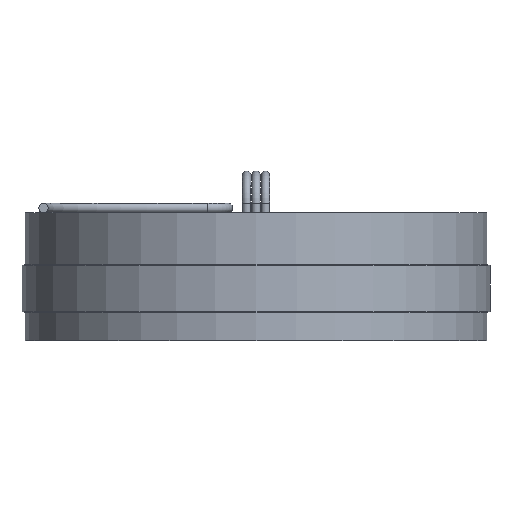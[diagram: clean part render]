
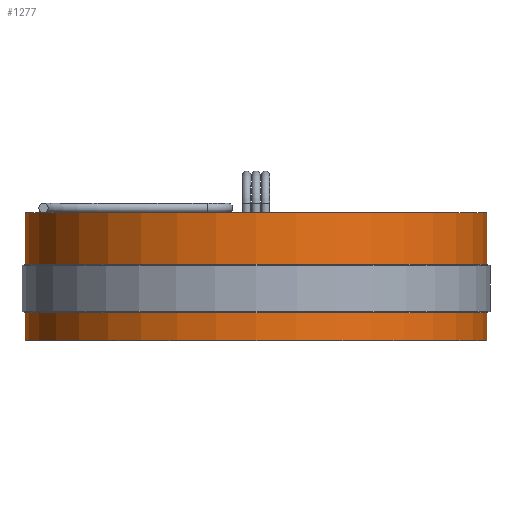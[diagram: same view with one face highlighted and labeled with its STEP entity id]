
A CAD part, front view. The second image highlights one B-rep face of the part: STEP entity #1277.
In plain terms, the highlighted cylindrical face has radius 62.611 mm (diameter 125.222 mm), a full revolution.
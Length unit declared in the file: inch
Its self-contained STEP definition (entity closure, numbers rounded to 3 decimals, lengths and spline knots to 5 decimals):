
#23 = CARTESIAN_POINT ( 'NONE',  ( 2.465, 0., 0.81 ) ) ;
#27 = FACE_OUTER_BOUND ( 'NONE', #1051, .T. ) ;
#93 = AXIS2_PLACEMENT_3D ( 'NONE', #510, #1280, #618 ) ;
#96 = FACE_OUTER_BOUND ( 'NONE', #1014, .T. ) ;
#116 = CARTESIAN_POINT ( 'NONE',  ( 0., 0., -0.56 ) ) ;
#269 = VERTEX_POINT ( 'NONE', #894 ) ;
#297 = DIRECTION ( 'NONE',  ( 1., 0., 0. ) ) ;
#311 = AXIS2_PLACEMENT_3D ( 'NONE', #116, #345, #975 ) ;
#318 = EDGE_CURVE ( 'NONE', #269, #269, #1150, .T. ) ;
#345 = DIRECTION ( 'NONE',  ( 0., 0., 1. ) ) ;
#510 = CARTESIAN_POINT ( 'NONE',  ( 0., 0., 0.81 ) ) ;
#530 = CIRCLE ( 'NONE', #93, 2.465 ) ;
#618 = DIRECTION ( 'NONE',  ( 1., 0., 0. ) ) ;
#739 = ORIENTED_EDGE ( 'NONE', *, *, #318, .T. ) ;
#767 = ORIENTED_EDGE ( 'NONE', *, *, #1153, .F. ) ;
#852 = AXIS2_PLACEMENT_3D ( 'NONE', #1175, #1052, #297 ) ;
#894 = CARTESIAN_POINT ( 'NONE',  ( 2.465, 0., -0.56 ) ) ;
#975 = DIRECTION ( 'NONE',  ( 1., 0., 0. ) ) ;
#1014 = EDGE_LOOP ( 'NONE', ( #767 ) ) ;
#1051 = EDGE_LOOP ( 'NONE', ( #739 ) ) ;
#1052 = DIRECTION ( 'NONE',  ( 0., 0., 1. ) ) ;
#1055 = VERTEX_POINT ( 'NONE', #23 ) ;
#1150 = CIRCLE ( 'NONE', #852, 2.465 ) ;
#1153 = EDGE_CURVE ( 'NONE', #1055, #1055, #530, .T. ) ;
#1175 = CARTESIAN_POINT ( 'NONE',  ( 0., 0., -0.56 ) ) ;
#1277 = ADVANCED_FACE ( 'NONE', ( #27, #96 ), #1405, .T. ) ;
#1280 = DIRECTION ( 'NONE',  ( 0., 0., 1. ) ) ;
#1405 = CYLINDRICAL_SURFACE ( 'NONE', #311, 2.465 ) ;
